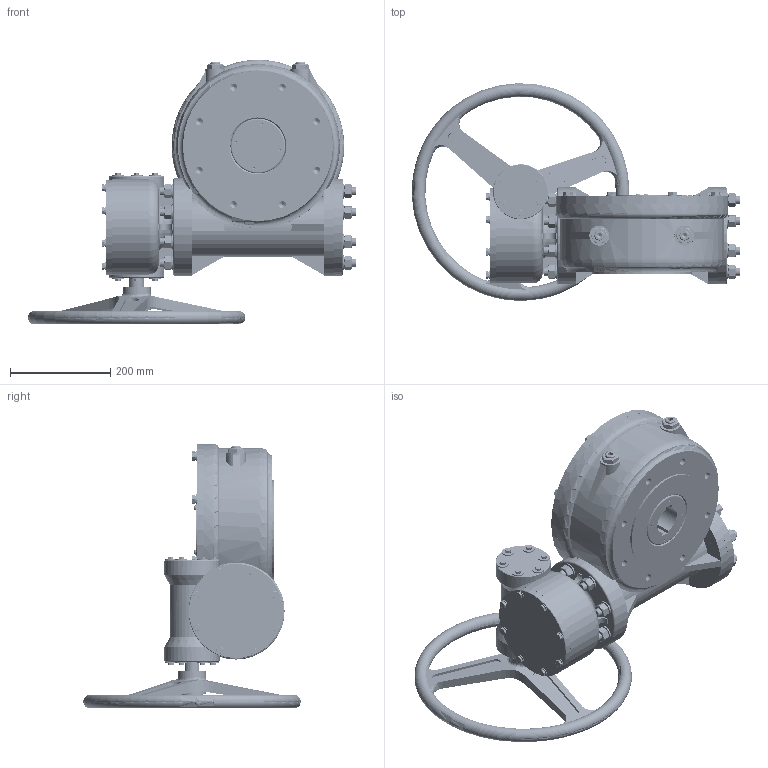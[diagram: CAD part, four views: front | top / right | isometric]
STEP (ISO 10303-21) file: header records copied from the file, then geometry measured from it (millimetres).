
FILE_DESCRIPTION (( 'STEP AP203' ), '1' );
FILE_NAME ('3DE-60-800-忒雄芛.STEP', '2026-02-06T04:43:58', ( '' ), ( '' ), 'SwSTEP 2.0', 'SolidWorks 2018', '' );
FILE_SCHEMA (( 'CONFIG_CONTROL_DESIGN' ));
Products named in the file (35): 3D-60-800-17-苤眊极ヶ傷裔菜; 3D-60-800-02-湮眊极傷裔; plain washers-n series-grade a gb_GB_FASTENER_WASHER_PWNA 12; 3D-60-800-03-湮眊极綴傷裔; 3D-60-800-15-霧齪; 3D-60-800-06-恘謫; double end studs bm=1.25d gb_GB_FASTENER_BOLT_DESBB A M16X45-N; hexagon head bolts--product grade c gb_GB_FASTENER_BOLT_HHBC M10X45-N; 3D-60-800-11-苤眊极ヶ傷裔; tapered roller bearings gb_Rolling bearings 30208 GB 297-94; 3D-60-800-09-苤恘蹦; 3D-60-800-12-苤眊极綴傷裔; 3DE-60-800-忒雄芛; plain washers-n series-grade a gb_GB_FASTENER_WASHER_PWNA 8; plain washers-n series-grade a gb_GB_FASTENER_WASHER_PWNA 10; 3D-60-800-20-苤眊极傷裔菜; 3D-60-800-01-湮眊极; 3D-60-800-18-湮眊极傷裔菜; 3D-60-800-14-菜; hexagon head bolts--product grade c gb_GB_FASTENER_BOLT_HHBC M8X40-N; 3D-60-800-05-恘裝粣; hexagon head bolts--product grade c gb_GB_FASTENER_BOLT_HHBC M6X30-N; tapered roller bearings gb_Rolling bearings 30206 GB 297-94; 3D-60-800-10-苤恘裝粣; hex thin nuts-grades ab-chamfered gb_GB_FASTENER_NUT_STNAB  B M20-N; 3D-60-800-19-湮眊极綴傷裔菜; L6-忒謫; slotted pan head screws gb_GB_FASTENER_SCREWS_NCHB M5X12-12-N; 鞠褒芛蹟邡M12x30; plain washers-n series-grade a gb_GB_FASTENER_WASHER_PWNA 16; 3D-60-800-04-湮眊极ヶ傷裔; 内六角平端紧定螺钉M20x115; 3D-60-800-08-苤眊极傷裔; hex nuts, style 1-grades ab gb_GB_FASTENER_NUT_SNAB1 M16-N; 3D-60-800-07-苤眊极
Assembly tree (134 placements, depth 2):
  3DE-60-800-忒雄芛
    3D-60-800-01-湮眊极
    3D-60-800-02-湮眊极傷裔
    3D-60-800-18-湮眊极傷裔菜
    3D-60-800-15-霧齪
    3D-60-800-03-湮眊极綴傷裔
    3D-60-800-19-湮眊极綴傷裔菜
    tapered roller bearings gb_Rolling bearings 30208 GB 297-94  x2
    3D-60-800-07-苤眊极
    3D-60-800-04-湮眊极ヶ傷裔
    3D-60-800-05-恘裝粣
    3D-60-800-06-恘謫
    3D-60-800-09-苤恘蹦
    3D-60-800-08-苤眊极傷裔
    3D-60-800-20-苤眊极傷裔菜
    3D-60-800-12-苤眊极綴傷裔
    3D-60-800-11-苤眊极ヶ傷裔
    3D-60-800-10-苤恘裝粣
    tapered roller bearings gb_Rolling bearings 30206 GB 297-94  x2
    3D-60-800-17-苤眊极ヶ傷裔菜
    L6-忒謫
    内六角平端紧定螺钉M20x115  x2
    hex thin nuts-grades ab-chamfered gb_GB_FASTENER_NUT_STNAB  B M20-N  x2
    hexagon head bolts--product grade c gb_GB_FASTENER_BOLT_HHBC M10X45-N  x8
    plain washers-n series-grade a gb_GB_FASTENER_WASHER_PWNA 10  x8
    hexagon head bolts--product grade c gb_GB_FASTENER_BOLT_HHBC M8X40-N  x8
    plain washers-n series-grade a gb_GB_FASTENER_WASHER_PWNA 8  x8
    plain washers-n series-grade a gb_GB_FASTENER_WASHER_PWNA 12  x12
    鞠褒芛蹟邡M12x30  x12
    double end studs bm=1.25d gb_GB_FASTENER_BOLT_DESBB A M16X45-N  x16
    plain washers-n series-grade a gb_GB_FASTENER_WASHER_PWNA 16  x16
    hex nuts, style 1-grades ab gb_GB_FASTENER_NUT_SNAB1 M16-N  x16
    3D-60-800-14-菜
    hexagon head bolts--product grade c gb_GB_FASTENER_BOLT_HHBC M6X30-N
    slotted pan head screws gb_GB_FASTENER_SCREWS_NCHB M5X12-12-N  x2
Bounding box: 656.45 x 434.9 x 529 mm (x, y, z)
Volume: 14761123.1 mm3; surface area: 2468112 mm2
Topology: 134 solids, 134 shells, 4210 faces, 12072 edges, 8006 vertices
Faces by surface type: plane 1282, cylinder 1080, cone 1046, torus 508, bspline 294
Entity records: 266203 total; most frequent: CARTESIAN_POINT 193920, ORIENTED_EDGE 15384, DIRECTION 11931, EDGE_CURVE 7692, VERTEX_POINT 5349, AXIS2_PLACEMENT_3D 4755, EDGE_LOOP 2995, B_SPLINE_CURVE_WITH_KNOTS 2565
